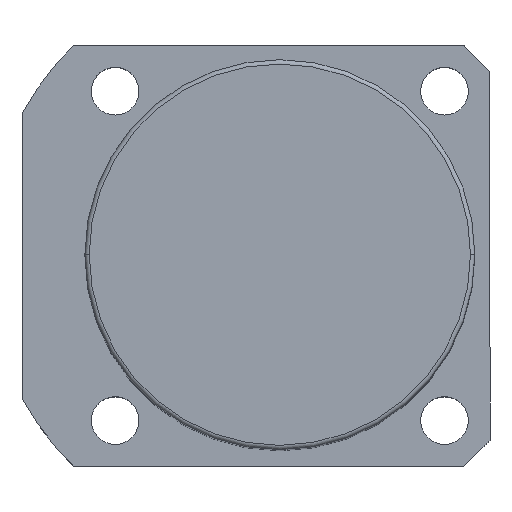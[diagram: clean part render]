
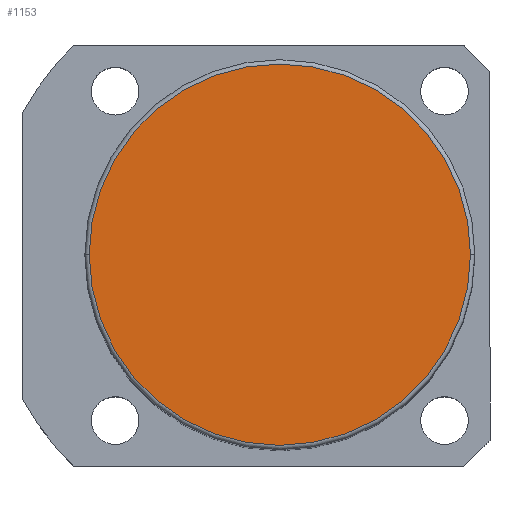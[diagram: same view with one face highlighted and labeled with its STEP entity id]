
A CAD part, top view. The second image highlights one B-rep face of the part: STEP entity #1153.
In plain terms, the highlighted planar face has unit normal (0, 0, 1).
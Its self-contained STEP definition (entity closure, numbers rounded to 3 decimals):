
#86 = CARTESIAN_POINT ( 'NONE',  ( 0., 0., 171.5 ) ) ;
#224 = DIRECTION ( 'NONE',  ( 1., 0., 0. ) ) ;
#263 = DIRECTION ( 'NONE',  ( 1., 0., 0. ) ) ;
#270 = VERTEX_POINT ( 'NONE', #1908 ) ;
#343 = EDGE_CURVE ( 'NONE', #1229, #270, #400, .T. ) ;
#400 = CIRCLE ( 'NONE', #1795, 44. ) ;
#449 = DIRECTION ( 'NONE',  ( 0., 0., 1. ) ) ;
#595 = ORIENTED_EDGE ( 'NONE', *, *, #343, .T. ) ;
#638 = EDGE_CURVE ( 'NONE', #270, #1229, #1620, .T. ) ;
#808 = CARTESIAN_POINT ( 'NONE',  ( 0., 0., 171.5 ) ) ;
#846 = ORIENTED_EDGE ( 'NONE', *, *, #638, .T. ) ;
#1055 = AXIS2_PLACEMENT_3D ( 'NONE', #86, #1493, #1307 ) ;
#1125 = PLANE ( 'NONE',  #1055 ) ;
#1153 = ADVANCED_FACE ( 'NONE', ( #1600 ), #1125, .T. ) ;
#1229 = VERTEX_POINT ( 'NONE', #1502 ) ;
#1307 = DIRECTION ( 'NONE',  ( 1., 0., 0. ) ) ;
#1430 = DIRECTION ( 'NONE',  ( 0., 0., 1. ) ) ;
#1493 = DIRECTION ( 'NONE',  ( 0., 0., 1. ) ) ;
#1502 = CARTESIAN_POINT ( 'NONE',  ( -44., 0., 171.5 ) ) ;
#1600 = FACE_OUTER_BOUND ( 'NONE', #2216, .T. ) ;
#1620 = CIRCLE ( 'NONE', #2101, 44. ) ;
#1795 = AXIS2_PLACEMENT_3D ( 'NONE', #2125, #1430, #224 ) ;
#1908 = CARTESIAN_POINT ( 'NONE',  ( 44., 0., 171.5 ) ) ;
#2101 = AXIS2_PLACEMENT_3D ( 'NONE', #808, #449, #263 ) ;
#2125 = CARTESIAN_POINT ( 'NONE',  ( 0., 0., 171.5 ) ) ;
#2216 = EDGE_LOOP ( 'NONE', ( #846, #595 ) ) ;
